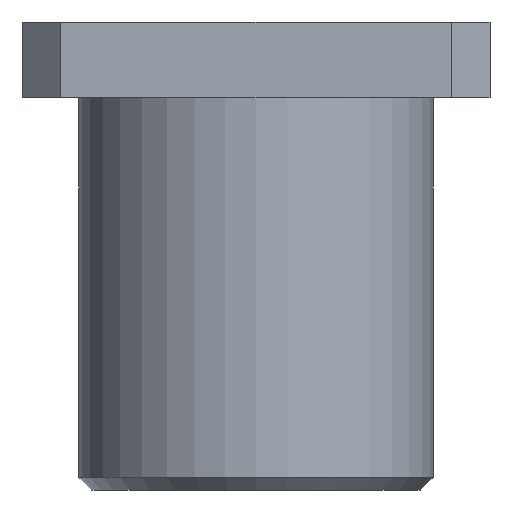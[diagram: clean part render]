
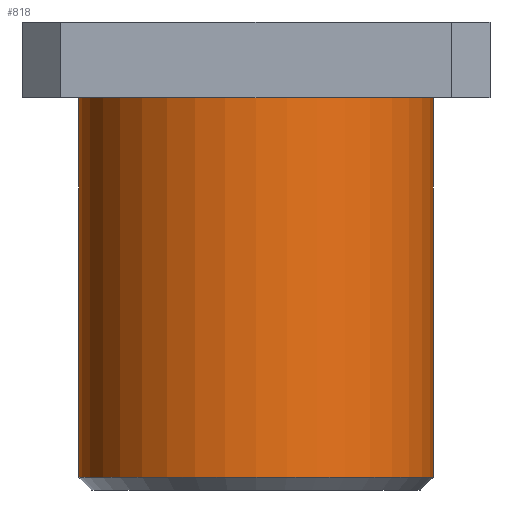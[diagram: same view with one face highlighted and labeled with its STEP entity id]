
A CAD part, front view. The second image highlights one B-rep face of the part: STEP entity #818.
In plain terms, the highlighted cylindrical face has radius 14 mm (diameter 28 mm), a partial arc.
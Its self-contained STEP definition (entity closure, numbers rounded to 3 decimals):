
#13 = DIRECTION ( 'NONE',  ( 1., 0., 0. ) ) ;
#132 = CARTESIAN_POINT ( 'NONE',  ( 14., 0., 1. ) ) ;
#174 = LINE ( 'NONE', #355, #400 ) ;
#208 = DIRECTION ( 'NONE',  ( 0., 0., -1. ) ) ;
#211 = CARTESIAN_POINT ( 'NONE',  ( 0., 0., 1. ) ) ;
#255 = DIRECTION ( 'NONE',  ( -1., 0., 0. ) ) ;
#271 = AXIS2_PLACEMENT_3D ( 'NONE', #211, #372, #13 ) ;
#292 = LINE ( 'NONE', #1028, #974 ) ;
#299 = VERTEX_POINT ( 'NONE', #1183 ) ;
#304 = CARTESIAN_POINT ( 'NONE',  ( 14., 0., 31. ) ) ;
#333 = DIRECTION ( 'NONE',  ( 0., 0., -1. ) ) ;
#352 = ORIENTED_EDGE ( 'NONE', *, *, #825, .T. ) ;
#355 = CARTESIAN_POINT ( 'NONE',  ( -14., 0., 37. ) ) ;
#364 = VERTEX_POINT ( 'NONE', #304 ) ;
#372 = DIRECTION ( 'NONE',  ( 0., 0., 1. ) ) ;
#400 = VECTOR ( 'NONE', #1091, 1000. ) ;
#441 = ORIENTED_EDGE ( 'NONE', *, *, #679, .T. ) ;
#453 = EDGE_LOOP ( 'NONE', ( #1142, #441, #1103, #352 ) ) ;
#490 = EDGE_CURVE ( 'NONE', #364, #545, #292, .T. ) ;
#504 = CIRCLE ( 'NONE', #1179, 14. ) ;
#507 = VERTEX_POINT ( 'NONE', #1133 ) ;
#525 = AXIS2_PLACEMENT_3D ( 'NONE', #749, #924, #1127 ) ;
#545 = VERTEX_POINT ( 'NONE', #132 ) ;
#679 = EDGE_CURVE ( 'NONE', #364, #507, #504, .T. ) ;
#736 = FACE_OUTER_BOUND ( 'NONE', #453, .T. ) ;
#749 = CARTESIAN_POINT ( 'NONE',  ( 0., 0., 37. ) ) ;
#792 = CIRCLE ( 'NONE', #271, 14. ) ;
#809 = CARTESIAN_POINT ( 'NONE',  ( 0., 0., 31. ) ) ;
#818 = ADVANCED_FACE ( 'NONE', ( #736 ), #942, .T. ) ;
#825 = EDGE_CURVE ( 'NONE', #299, #545, #792, .T. ) ;
#924 = DIRECTION ( 'NONE',  ( 0., 0., -1. ) ) ;
#942 = CYLINDRICAL_SURFACE ( 'NONE', #525, 14. ) ;
#974 = VECTOR ( 'NONE', #208, 1000. ) ;
#1028 = CARTESIAN_POINT ( 'NONE',  ( 14., 0., 37. ) ) ;
#1091 = DIRECTION ( 'NONE',  ( 0., 0., -1. ) ) ;
#1103 = ORIENTED_EDGE ( 'NONE', *, *, #1161, .T. ) ;
#1127 = DIRECTION ( 'NONE',  ( -1., 0., 0. ) ) ;
#1133 = CARTESIAN_POINT ( 'NONE',  ( -14., 0., 31. ) ) ;
#1142 = ORIENTED_EDGE ( 'NONE', *, *, #490, .F. ) ;
#1161 = EDGE_CURVE ( 'NONE', #507, #299, #174, .T. ) ;
#1179 = AXIS2_PLACEMENT_3D ( 'NONE', #809, #333, #255 ) ;
#1183 = CARTESIAN_POINT ( 'NONE',  ( -14., 0., 1. ) ) ;
